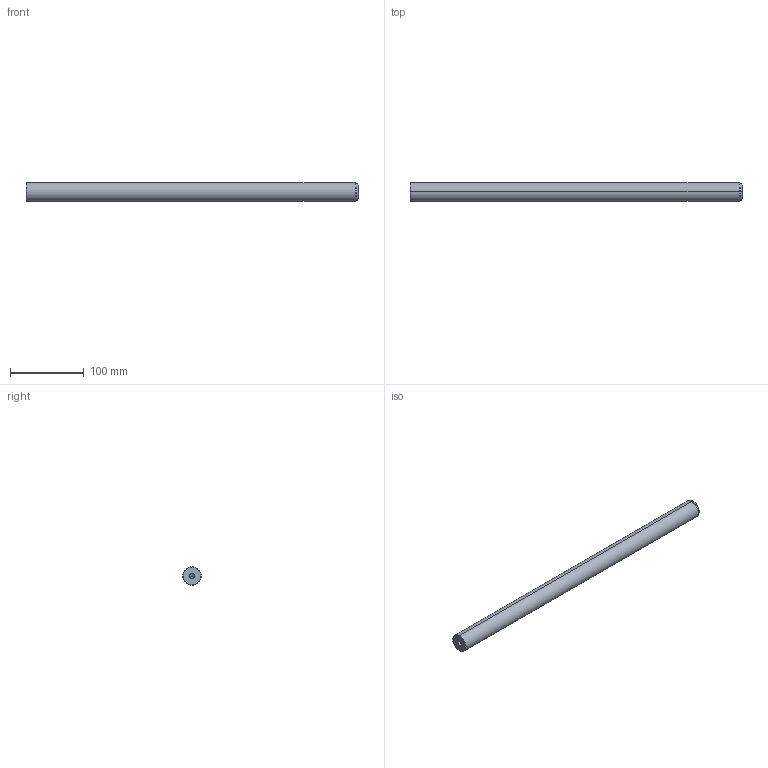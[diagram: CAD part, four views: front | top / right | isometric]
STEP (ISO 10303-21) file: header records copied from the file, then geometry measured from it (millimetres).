
FILE_DESCRIPTION(('CATIA V5 STEP Exchange'),'2;1');
FILE_NAME('C:\Users\Utente\Desktop\IO LAVORO\3D X SITO CF\X SITO\720\720-25x450.stp','2021-01-01T12:36:28+00:00',('none'),('none'),'CATIA Version 5 Release 20 GA (IN-10)','CATIA V5 STEP AP203','none');
FILE_SCHEMA(('CONFIG_CONTROL_DESIGN'));
Length unit declared in the file: millimetre
Products named in the file (1): 720-25x450
Bounding box: 450 x 25 x 25 mm (x, y, z)
Volume: 218916.5 mm3; surface area: 37153.6 mm2
Topology: 1 solids, 1 shells, 22 faces, 62 edges, 40 vertices
Faces by surface type: cone 12, cylinder 6, plane 2, torus 2
Entity records: 806 total; most frequent: CARTESIAN_POINT 229, ORIENTED_EDGE 116, DIRECTION 93, EDGE_CURVE 58, AXIS2_PLACEMENT_3D 54, VERTEX_POINT 40, CIRCLE 31, EDGE_LOOP 24
